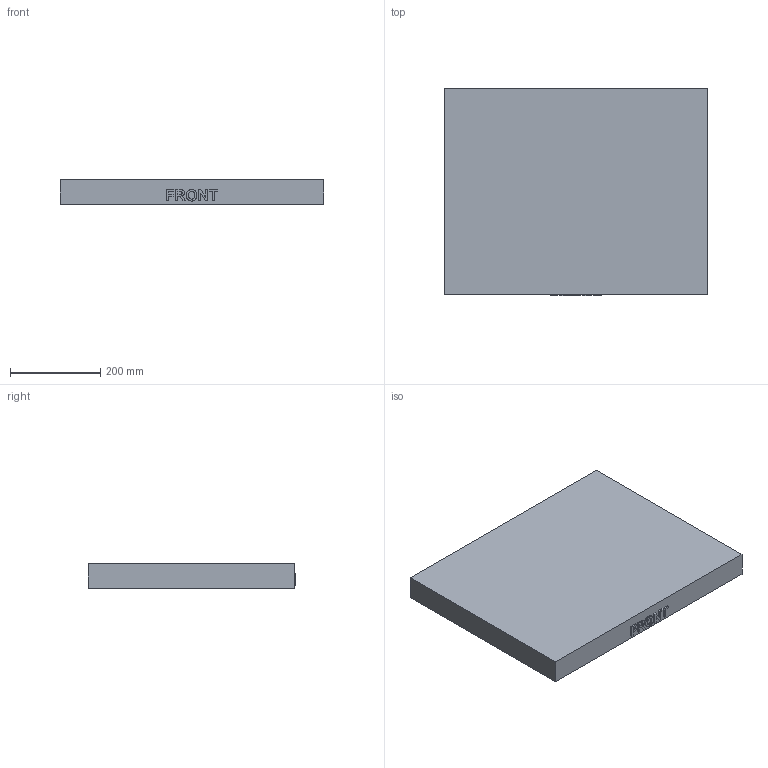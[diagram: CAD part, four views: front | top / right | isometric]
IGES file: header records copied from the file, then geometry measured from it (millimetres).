
Start section: Comment
Global section: file name: 2700-lid_internal_tub.igs; native system:  By UGS Corp.; preprocessor: XPlus GENERIC/IGES 3.0; author: Author; organization: Title; date: 20100513.142231; units: millimetre
Bounding box: 584.2 x 460.38 x 53.98 mm (x, y, z)
Surface area: 733214.4 mm2 (no closed solid volume)
Topology: 0 solids, 0 shells, 387 faces, 2112 edges, 2090 vertices
Faces by surface type: bspline 387
